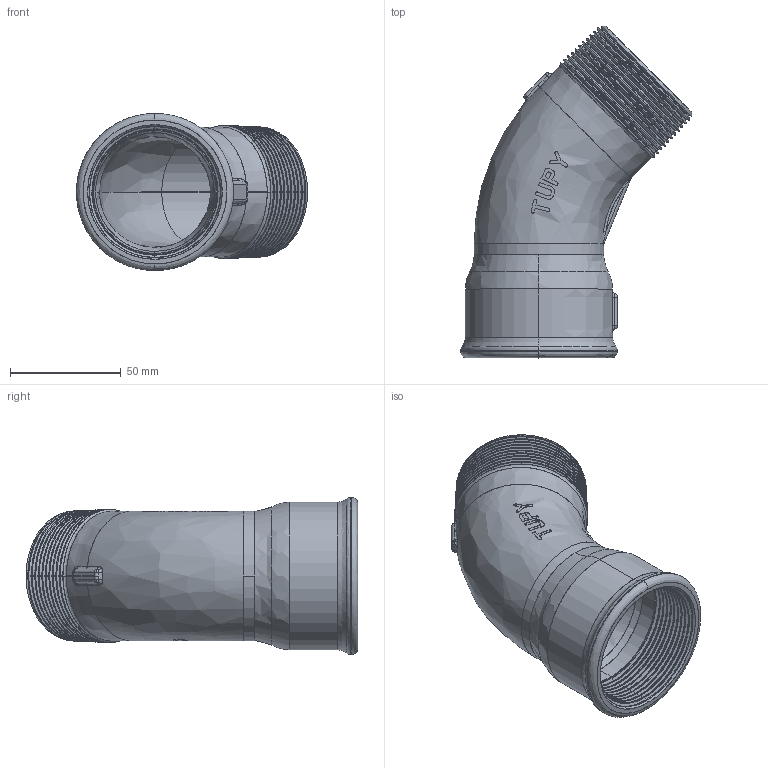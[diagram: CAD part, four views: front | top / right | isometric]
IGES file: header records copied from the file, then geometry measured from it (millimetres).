
Start section: SolidWorks IGES file using analytic representation for surfaces
Global section: file name: C:\Users\Joel Rosa\Desktop\Tubulação\12-27-OK\12-27-010.IGS; native system: SolidWorks 2011; preprocessor: SolidWorks 2011; author: Joel Rosa; date: 130205.214730; units: millimetre
Bounding box: 104.48 x 149.98 x 71 mm (x, y, z)
Surface area: 60559.4 mm2 (no closed solid volume)
Topology: 0 solids, 0 shells, 394 faces, 3221 edges, 3221 vertices
Faces by surface type: bspline 263, revolution 131
